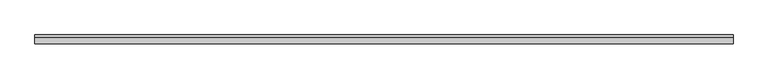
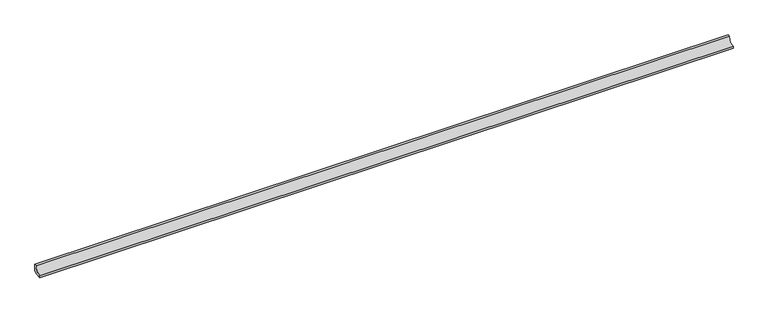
"""IFC4 building model written with IfcOpenShell, lengths in millimetres: proxy geometry, Muestra 3.16m 188 : Muestra 3.16m 188."""

from ifc_helpers import new_model, si_unit, point, frame, frame_2d, origin, place, context, project, spatial, polyline, circle_curve, trimmed, segment, composite_curve, outline, extrude, source, transform, mapped, element, save


def generic_models_2699ce9c(model_context):
    return source(origin(), model_context, "Body", "SweptSolid", [
        extrude(outline(composite_curve([segment(polyline([(-13501.0058024, -31.2885022), (-13509.7173002, -40.0), (-13541.0058024, -40.0), (-13541.0058024, -30.0265886)]), True, "CONTINUOUS"), segment(trimmed(circle_curve(frame_2d((-13541.0013571, -0.0044453)), 30.0221435), [point((-13541.0058024, -30.0265886))], [point((-13510.9792138, 0.0))], True, "CARTESIAN"), True, "CONTINUOUS"), segment(polyline([(-13510.9792138, 0.0), (-13501.0058024, 0.0), (-13501.0058024, -31.2885022)]), True, "CONTINUOUS")], self_intersect=False)), frame((143244.6596951, 0.0, 0.0), z_axis=(1.0, 0.0, 0.0), x_axis=(0.0, 1.0, 0.0)), (0.0, 0.0, 1.0), 3160.0),
    ])


if __name__ == "__main__":
    model = new_model("IFC4")
    model_context = context("Model", 3, world=origin())
    ifc_project = project(units=[si_unit("LENGTHUNIT", "METRE", prefix="MILLI")], contexts=[model_context])
    site = spatial("IfcSite", under=ifc_project)
    building = spatial("IfcBuilding", under=site)
    placement = place(None, origin())
    generic_models_shape = generic_models_2699ce9c(model_context)
    element("IfcBuildingElementProxy", 1, Name="Muestra 3.16m 188 : Muestra 3.16m 188", ObjectType="Muestra 3.16m 188 : Muestra 3.16m 188", at=placement, inside=building, context=model_context, shape_type="MappedRepresentation", body=[
        mapped(generic_models_shape, transform((0.0, 0.0, 0.0), x_axis=(1.0, 0.0, 0.0), y_axis=(0.0, 1.0, 0.0), z_axis=(0.0, 0.0, 1.0))),
    ])
    save(model, "model.ifc")
